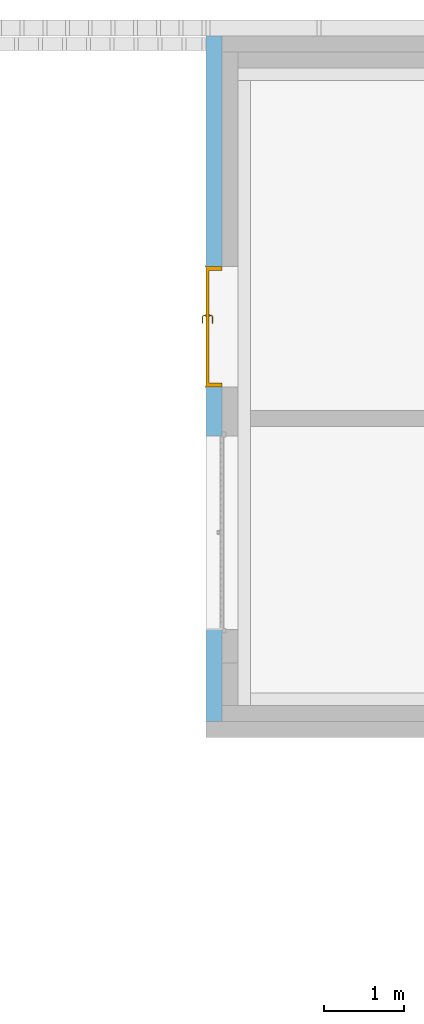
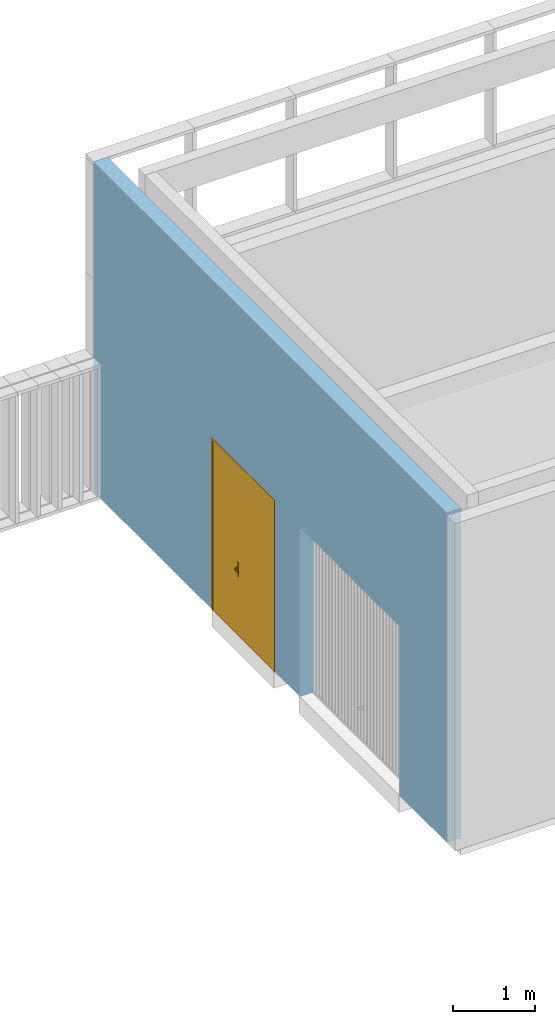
# One storey, part 205 of 240: 1 door, 2 openings, plus 1 element that does not belong to this part.
"""IFC2X3 building model written with IfcOpenShell, lengths in centimetres."""

from ifc_helpers import new_model, entity, si_unit, converted_unit, derived_unit, direction, frame, frame_2d, origin, place, context, subcontext, project, spatial, rectangle, extrude, faceted_brep, source, transform, mapped, material, material_list, layer, layer_set, layer_usage, type_object, type_shapes, element, fill, save


model = new_model("IFC2X3")

# Units and contexts
model_context = context("Model", 3, precision=0.001, world=origin(), true_north=direction((6.12303176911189e-17, 1.0)))
body_context = subcontext(model_context, "Body", "Model", "MODEL_VIEW")
ifc_project = project(units=[si_unit("LENGTHUNIT", "METRE", prefix="CENTI"), si_unit("AREAUNIT", "SQUARE_METRE"), si_unit("VOLUMEUNIT", "CUBIC_METRE"), converted_unit("PLANEANGLEUNIT", "DEGREE", entity("IfcRatioMeasure", 0.0174532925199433), si_unit("PLANEANGLEUNIT", "RADIAN"), dimensions=[0, 0, 0, 0, 0, 0, 0]), si_unit("MASSUNIT", "GRAM", prefix="KILO"), derived_unit("MASSDENSITYUNIT", [(si_unit("MASSUNIT", "GRAM", prefix="KILO"), 1), (si_unit("LENGTHUNIT", "METRE"), -3)]), si_unit("TIMEUNIT", "SECOND"), si_unit("FREQUENCYUNIT", "HERTZ"), si_unit("THERMODYNAMICTEMPERATUREUNIT", "DEGREE_CELSIUS"), derived_unit("THERMALTRANSMITTANCEUNIT", [(si_unit("MASSUNIT", "GRAM", prefix="KILO"), 1), (si_unit("THERMODYNAMICTEMPERATUREUNIT", "KELVIN"), -1), (si_unit("TIMEUNIT", "SECOND"), -3)]), derived_unit("VOLUMETRICFLOWRATEUNIT", [(si_unit("LENGTHUNIT", "METRE"), 3), (si_unit("TIMEUNIT", "SECOND"), -1)]), si_unit("ELECTRICCURRENTUNIT", "AMPERE"), si_unit("ELECTRICVOLTAGEUNIT", "VOLT"), si_unit("POWERUNIT", "WATT"), si_unit("FORCEUNIT", "NEWTON", prefix="KILO"), si_unit("ILLUMINANCEUNIT", "LUX"), si_unit("LUMINOUSFLUXUNIT", "LUMEN"), si_unit("LUMINOUSINTENSITYUNIT", "CANDELA"), derived_unit("USERDEFINED", [(si_unit("MASSUNIT", "GRAM", prefix="KILO"), -1), (si_unit("LENGTHUNIT", "METRE"), -2), (si_unit("TIMEUNIT", "SECOND"), 3), (si_unit("LUMINOUSFLUXUNIT", "LUMEN"), 1)]), derived_unit("LINEARVELOCITYUNIT", [(si_unit("LENGTHUNIT", "METRE"), 1), (si_unit("TIMEUNIT", "SECOND"), -1)]), si_unit("PRESSUREUNIT", "PASCAL"), derived_unit("USERDEFINED", [(si_unit("LENGTHUNIT", "METRE"), -2), (si_unit("MASSUNIT", "GRAM", prefix="KILO"), 1), (si_unit("TIMEUNIT", "SECOND"), -2)])], contexts=[model_context])

# Site, building, storey
site_placement = place(None, frame((-2781.94577612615, 7442.24238424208, 0.0)))
site = spatial("IfcSite", under=ifc_project, at=site_placement, Name="Default", CompositionType="ELEMENT")
building_placement = place(site_placement, origin())
building = spatial("IfcBuilding", under=site, at=building_placement, CompositionType="ELEMENT")
storey_placement = place(building_placement, origin())
storey = spatial("IfcBuildingStorey", under=building, at=storey_placement, Name="N00 - COO", CompositionType="ELEMENT", Elevation=0.0)

# Wall, openings, door
ifc_material_1 = material(Name="Aluminium bardage")
ifc_layer_1 = layer(ifc_material_1, 0.5)
ifc_material_2 = material(Name="01 - Lame d'air")
ifc_layer_2 = layer(ifc_material_2, 1.5)
ifc_material_3 = material(Name="00 - Isolant")
ifc_layer_3 = layer(ifc_material_3, 18.0)
ifc_layer_set = layer_set([ifc_layer_1, ifc_layer_2, ifc_layer_3], Name="Mur de base:04 - Parement - ITE 18cm + vide 2cm")
ifc_layer_usage = layer_usage(ifc_layer_set, "AXIS2", "NEGATIVE", 10.0)
wall_type = type_object("IfcWallType", Name="Mur de base:04 - Parement - ITE 18cm + vide 2cm", PredefinedType="STANDARD", material=ifc_layer_set)
wall_placement = place(building_placement, frame((-11220.6616968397, -830.048500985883, 0.0), z_axis=(0.0, 0.0, 1.0), x_axis=(0.0, 1.0, 0.0)))
wall = element("IfcWallStandardCase", 1, at=wall_placement, inside=storey, type_object=wall_type, material=ifc_layer_usage, Name="Mur de base:04 - Parement - ITE 18cm + vide 2cm", ObjectType="Mur de base:04 - Parement - ITE 18cm + vide 2cm", context=body_context, shape_type="SweptSolid", body=[
    extrude(rectangle(XDim=860.04850098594, YDim=19.9999999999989, at=frame_2d((430.02425049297, 3.99680288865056e-14), x_axis=(-1.0, 0.0))), origin(), (0.0, 0.0, 1.0), 490.0),
])
opening_1_placement = place(wall_placement, frame((830.048500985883, -11220.6616968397, 0.0), z_axis=(0.0, 0.0, 1.0), x_axis=(0.0, -1.0, 0.0)))
element("IfcOpeningElement", 2, at=opening_1_placement, cuts=wall, Name="Mur de base:04 - Parement - ITE 18cm + vide 2cm", ObjectType="Opening", context=body_context, shape_type="SweptSolid", body=[
    extrude(rectangle(XDim=251.500000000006, YDim=242.999999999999, at=frame_2d((0.0, -7.8159700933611e-14), x_axis=(1.0, 0.0))), frame((-11180.6616968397, -593.0, 125.750000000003), z_axis=(-1.0, 0.0, 0.0), x_axis=(0.0, 0.0, -1.0)), (0.0, 0.0, 1.0), 80.0000000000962),
])
opening_2_placement = place(wall_placement, frame((420.024250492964, -10.0, 0.0)))
opening_2 = element("IfcOpeningElement", 3, at=opening_2_placement, cuts=wall, Name="Int. Tierce:PP  chaufferie (1.80m x 2.50m):1", ObjectType="Opening", context=body_context, shape_type="SweptSolid", body=[
    extrude(rectangle(XDim=253.500000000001, YDim=151.0, at=frame_2d((126.750000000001, 75.4999999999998), x_axis=(1.0, 0.0))), frame((0.0, 0.0, 0.0), z_axis=(0.0, 1.0, 0.0), x_axis=(0.0, 0.0, 1.0)), (0.0, 0.0, 1.0), 20.0),
])
ifc_material_4 = material(Name="Finition Peinture - Blanc satiné")
ifc_material_5 = material(Name="Aluminium")
ifc_material_list_1 = material_list([ifc_material_4, ifc_material_1, ifc_material_5])
ifc_material_list_2 = material_list([ifc_material_4, ifc_material_1, ifc_material_5])
door_style = type_object("IfcDoorStyle", Name="PP  chaufferie (1.80m x 2.50m)", ConstructionType="NOTDEFINED", OperationType="DOUBLE_DOOR_SINGLE_SWING", ParameterTakesPrecedence=False, Sizeable=False, material=ifc_material_list_2)
shared_shape = source(origin(), body_context, "Body", "Brep", [
    faceted_brep([(69.535276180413, -0.500000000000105, 86.6003983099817), (70.5000000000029, -0.500000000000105, 87.0), (70.5000000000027, -0.500000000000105, 108.0), (69.5352761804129, -0.500000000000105, 108.399601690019), (68.5000000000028, -0.500000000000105, 108.535898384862), (67.4647238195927, -0.500000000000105, 108.399601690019), (66.5000000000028, -0.500000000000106, 108.0), (66.5000000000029, -0.500000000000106, 87.0), (67.4647238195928, -0.500000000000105, 86.6003983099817), (68.5000000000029, -0.500000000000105, 86.464101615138), (69.5352761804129, 0.0, 108.399601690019), (70.5000000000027, 0.0, 108.0), (70.5000000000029, 0.0, 87.0), (69.535276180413, 0.0, 86.6003983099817), (68.5000000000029, 0.0, 86.464101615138), (67.4647238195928, 0.0, 86.6003983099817), (66.5000000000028, 0.0, 87.0), (66.5000000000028, 0.0, 108.0), (67.4647238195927, 0.0, 108.399601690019), (68.5000000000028, 0.0, 108.535898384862)], [[[0, 1, 2, 3, 4, 5, 6, 7, 8, 9]], [[10, 11, 12, 13, 14, 15, 16, 17, 18, 19]], [[16, 15, 8, 7]], [[8, 15, 14, 9]], [[14, 13, 0, 9]], [[13, 12, 1, 0]], [[2, 1, 12, 11]], [[11, 10, 3, 2]], [[3, 10, 19, 4]], [[19, 18, 5, 4]], [[18, 17, 6, 5]], [[7, 6, 17, 16]]]),
    faceted_brep([(69.535276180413, 4.0, 86.6003983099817), (70.5000000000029, 4.0, 87.0), (70.5000000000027, 4.0, 108.0), (69.5352761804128, 4.0, 108.399601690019), (68.5000000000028, 4.0, 108.535898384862), (67.4647238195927, 4.0, 108.399601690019), (66.5000000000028, 4.0, 108.0), (66.5000000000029, 4.0, 87.0), (67.4647238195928, 4.0, 86.6003983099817), (68.5000000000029, 4.0, 86.464101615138), (69.5352761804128, 4.49999999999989, 108.399601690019), (70.5000000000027, 4.49999999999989, 108.0), (70.5000000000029, 4.49999999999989, 87.0), (69.535276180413, 4.49999999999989, 86.6003983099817), (68.5000000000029, 4.49999999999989, 86.464101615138), (67.4647238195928, 4.49999999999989, 86.6003983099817), (66.5000000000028, 4.49999999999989, 87.0), (66.5000000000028, 4.49999999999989, 108.0), (67.4647238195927, 4.49999999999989, 108.399601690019), (68.5000000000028, 4.49999999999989, 108.535898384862)], [[[0, 1, 2, 3, 4, 5, 6, 7, 8, 9]], [[10, 11, 12, 13, 14, 15, 16, 17, 18, 19]], [[11, 10, 3, 2]], [[3, 10, 19, 4]], [[19, 18, 5, 4]], [[18, 17, 6, 5]], [[7, 6, 17, 16]], [[16, 15, 8, 7]], [[8, 15, 14, 9]], [[14, 13, 0, 9]], [[13, 12, 1, 0]], [[2, 1, 12, 11]]]),
    faceted_brep([(68.2974701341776, -0.500000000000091, 100.778044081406), (68.7025298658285, -0.500000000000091, 100.778044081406), (69.1000000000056, -0.500000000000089, 100.699999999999), (69.1000000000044, -0.500000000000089, 99.3000000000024), (68.7025298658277, -0.500000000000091, 99.2219559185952), (68.2974701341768, -0.500000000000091, 99.221955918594), (67.9000000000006, -0.500000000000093, 99.2999999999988), (67.9000000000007, -0.500000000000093, 100.7), (67.9000000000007, -3.26509507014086, 100.7), (68.2974701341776, -3.10045754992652, 100.778044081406), (69.9023585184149, -4.70534593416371, 100.778044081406), (70.0701397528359, -4.30028620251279, 100.778044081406), (68.7025298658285, -2.93267631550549, 100.778044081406), (69.1000000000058, -2.76803879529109, 100.7), (69.1000000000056, -2.76803879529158, 99.3000000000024), (68.7025298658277, -2.93267631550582, 99.2219559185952), (70.0701397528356, -4.30028620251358, 99.2219559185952), (69.9023585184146, -4.70534593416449, 99.221955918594), (68.2974701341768, -3.10045754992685, 99.221955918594), (67.9000000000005, -3.26509507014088, 99.2999999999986), (69.7377209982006, -5.10281606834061, 100.7), (70.2347772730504, -3.90281606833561, 100.7), (70.2347772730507, -3.90281606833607, 99.3000000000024), (69.7377209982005, -5.10281606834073, 99.2999999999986), (78.5018640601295, -5.1028160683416, 99.2999999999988), (78.5018640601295, -4.70534593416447, 99.221955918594), (78.5018640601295, -4.30028620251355, 99.2219559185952), (78.5018640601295, -3.90281606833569, 99.3000000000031), (78.5018640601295, -3.90281606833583, 100.7), (78.5018640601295, -4.30028620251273, 100.778044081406), (78.5018640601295, -4.70534593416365, 100.778044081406), (78.5018640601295, -5.10281606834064, 100.699999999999), (73.7307697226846, -5.10281606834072, 100.7), (74.2860019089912, -4.5028160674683, 100.78786867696), (74.3683206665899, -3.9028160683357, 100.7), (74.3683206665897, -3.90281606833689, 99.3000000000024), (74.286001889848, -4.50281607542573, 99.2121313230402), (73.7307700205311, -5.10281606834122, 99.2999999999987)], [[[0, 1, 2, 3, 4, 5, 6, 7]], [[8, 9, 0, 7]], [[9, 10, 11, 12, 1, 0]], [[12, 13, 2, 1]], [[3, 2, 13, 14]], [[14, 15, 4, 3]], [[15, 16, 17, 18, 5, 4]], [[18, 19, 6, 5]], [[7, 6, 19, 8]], [[20, 10, 9, 8]], [[11, 21, 13, 12]], [[14, 13, 21, 22]], [[22, 16, 15, 14]], [[17, 23, 19, 18]], [[8, 19, 23, 20]], [[24, 25, 26, 27, 28, 29, 30, 31]], [[32, 30, 33]], [[31, 30, 32]], [[10, 20, 32]], [[33, 34, 11]], [[21, 11, 34]], [[34, 29, 28]], [[30, 29, 33]], [[29, 34, 33]], [[10, 32, 33]], [[10, 33, 11]], [[22, 21, 34, 28, 27, 35]], [[35, 26, 36]], [[37, 36, 25]], [[22, 35, 16]], [[35, 27, 26]], [[24, 37, 25]], [[23, 17, 37]], [[37, 17, 36]], [[17, 16, 36]], [[16, 35, 36]], [[25, 36, 26]], [[20, 23, 37, 24, 31, 32]]]),
    faceted_brep([(68.2974701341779, 4.49999999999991, 100.778044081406), (67.9000000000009, 4.4999999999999, 100.7), (67.8999999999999, 4.4999999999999, 99.2999999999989), (68.2974701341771, 4.49999999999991, 99.221955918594), (68.702529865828, 4.49999999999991, 99.2219559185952), (69.1000000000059, 4.49999999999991, 99.3000000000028), (69.1000000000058, 4.49999999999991, 100.7), (68.7025298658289, 4.49999999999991, 100.778044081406), (69.1000000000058, 6.7485204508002, 99.3000000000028), (69.1000000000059, 6.74852045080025, 100.7), (68.7025298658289, 6.91315797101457, 100.778044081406), (70.0838906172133, 8.29451872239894, 100.778044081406), (69.9161093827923, 8.69957845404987, 100.778044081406), (68.297470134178, 7.0809392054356, 100.778044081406), (67.9000000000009, 7.24557672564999, 100.7), (67.9000000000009, 7.2455767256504, 99.2999999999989), (68.297470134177, 7.08093920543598, 99.221955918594), (69.916109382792, 8.69957845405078, 99.221955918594), (70.083890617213, 8.29451872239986, 99.2219559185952), (68.702529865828, 6.91315797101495, 99.2219559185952), (70.2485281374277, 7.89704858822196, 99.3000000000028), (70.2485281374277, 7.89704858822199, 100.7), (69.751471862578, 9.09704858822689, 100.7), (69.7514718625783, 9.0970485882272, 99.2999999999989), (78.5045783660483, 7.89704858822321, 99.3000000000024), (78.5045783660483, 8.29451872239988, 99.2219559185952), (78.5045783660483, 8.6995784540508, 99.221955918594), (78.5045783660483, 9.09704858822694, 99.2999999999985), (78.5045783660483, 9.09704858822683, 100.7), (78.5045783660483, 8.69957845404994, 100.778044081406), (78.5045783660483, 8.29451872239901, 100.778044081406), (78.5045783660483, 7.89704858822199, 100.7), (74.3765520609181, 7.89704858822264, 99.3000000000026), (74.376553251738, 7.89704858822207, 100.7), (74.2942344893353, 8.49704858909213, 100.78786867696), (73.7445205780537, 9.09704858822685, 100.7), (73.7445204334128, 9.09704858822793, 99.2999999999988), (74.2942345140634, 8.49704858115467, 99.2121313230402)], [[[0, 1, 2, 3, 4, 5, 6, 7]], [[6, 5, 8, 9]], [[9, 10, 7, 6]], [[10, 11, 12, 13, 0, 7]], [[13, 14, 1, 0]], [[2, 1, 14, 15]], [[15, 16, 3, 2]], [[16, 17, 18, 19, 4, 3]], [[19, 8, 5, 4]], [[9, 8, 20, 21]], [[21, 11, 10, 9]], [[12, 22, 14, 13]], [[15, 14, 22, 23]], [[23, 17, 16, 15]], [[18, 20, 8, 19]], [[24, 25, 26, 27, 28, 29, 30, 31]], [[21, 20, 32, 24, 31, 33]], [[33, 30, 34]], [[35, 34, 29]], [[21, 33, 11]], [[33, 31, 30]], [[28, 35, 29]], [[22, 12, 35]], [[35, 12, 34]], [[12, 11, 34]], [[11, 33, 34]], [[29, 34, 30]], [[22, 35, 28, 27, 36, 23]], [[36, 26, 37]], [[27, 26, 36]], [[17, 23, 36]], [[37, 32, 18]], [[20, 18, 32]], [[32, 25, 24]], [[26, 25, 37]], [[25, 32, 37]], [[17, 36, 37]], [[17, 37, 18]]]),
    faceted_brep([(62.5000000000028, 4.0, 250.0), (154.500000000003, 4.0, 250.0), (154.500000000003, 4.0, 0.0), (62.5000000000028, 4.0, 0.0), (62.5000000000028, 0.0, 250.0), (62.5000000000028, 0.0, 0.0), (154.500000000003, 0.0, 0.0), (154.500000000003, 0.0, 250.0)], [[[0, 1, 2, 3]], [[4, 5, 6, 7]], [[1, 0, 4, 7]], [[2, 1, 7, 6]], [[3, 2, 6, 5]], [[0, 3, 5, 4]]]),
    faceted_brep([(158.0, 0.0, 0.0), (154.500000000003, 0.0, 0.0), (154.500000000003, 4.0, 0.0), (153.0, 4.0, 0.0), (153.0, 20.0, 0.0), (158.0, 20.0, 0.0), (158.0, 20.0, 253.500000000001), (158.0, 0.0, 253.500000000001), (153.0, 20.0, 248.5), (12.0, 20.0, 248.5), (12.0, 20.0, 0.0), (7.0, 20.0, 0.0), (7.0, 20.0, 253.500000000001), (153.0, 4.0, 248.5), (154.500000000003, 4.0, 250.0), (10.5000000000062, 4.0, 250.0), (10.5000000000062, 4.0, 0.0), (12.0, 4.0, 0.0), (12.0, 4.0, 248.5), (154.500000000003, 0.0, 250.0), (7.0, 0.0, 253.500000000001), (7.0, 0.0, 0.0), (10.5000000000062, 0.0, 0.0), (10.5000000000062, 0.0, 250.0)], [[[0, 1, 2, 3, 4, 5]], [[5, 6, 7, 0]], [[4, 8, 9, 10, 11, 12, 6, 5]], [[3, 13, 8, 4]], [[2, 14, 15, 16, 17, 18, 13, 3]], [[1, 19, 14, 2]], [[0, 7, 20, 21, 22, 23, 19, 1]], [[12, 11, 21, 20]], [[21, 11, 10, 17, 16, 22]], [[18, 17, 10, 9]], [[23, 22, 16, 15]], [[6, 12, 20, 7]], [[13, 18, 9, 8]], [[19, 23, 15, 14]]]),
    faceted_brep([(10.500000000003, 0.0, 250.0), (62.5000000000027, 0.0, 250.0), (62.5000000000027, 4.0, 250.0), (10.500000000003, 4.0, 250.0), (10.500000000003, 0.0, 0.0), (10.500000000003, 4.0, 0.0), (62.5000000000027, 4.0, 0.0), (62.5000000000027, 0.0, 0.0)], [[[0, 1, 2, 3]], [[4, 5, 6, 7]], [[3, 5, 4, 0]], [[2, 6, 5, 3]], [[1, 7, 6, 2]], [[0, 4, 7, 1]]]),
    faceted_brep([(156.500000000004, 20.0, 0.0), (156.500000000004, 20.5000000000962, 0.0), (159.500000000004, 20.5000000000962, 0.0), (159.500000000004, 20.0, 0.0), (159.500000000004, 20.0, 255.0), (5.50000000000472, 20.0, 255.0), (5.50000000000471, 20.0, 0.0), (8.50000000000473, 20.0, 0.0), (8.5000000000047, 20.0, 252.0), (156.500000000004, 20.0, 252.0), (159.500000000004, 20.5000000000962, 255.0), (156.500000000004, 20.5000000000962, 252.0), (8.50000000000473, 20.5000000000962, 252.0), (8.50000000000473, 20.5000000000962, 0.0), (5.50000000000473, 20.5000000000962, 0.0), (5.50000000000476, 20.5000000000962, 255.0)], [[[0, 1, 2, 3]], [[3, 4, 5, 6, 7, 8, 9, 0]], [[2, 10, 4, 3]], [[1, 11, 12, 13, 14, 15, 10, 2]], [[0, 9, 11, 1]], [[7, 6, 14, 13]], [[8, 7, 13, 12]], [[15, 14, 6, 5]], [[9, 8, 12, 11]], [[10, 15, 5, 4]]]),
    faceted_brep([(159.500000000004, -0.500000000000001, 0.0), (159.500000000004, -0.500000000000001, 255.0), (5.50000000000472, -0.500000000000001, 255.0), (5.50000000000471, -0.500000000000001, 0.0), (8.50000000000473, -0.500000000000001, 0.0), (8.5000000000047, -0.500000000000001, 252.0), (156.500000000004, -0.500000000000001, 252.0), (156.500000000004, -0.500000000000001, 0.0), (159.500000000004, 0.0, 0.0), (159.500000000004, 0.0, 255.0), (156.500000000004, 0.0, 0.0), (156.500000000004, 0.0, 252.0), (8.50000000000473, 0.0, 252.0), (8.50000000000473, 0.0, 0.0), (5.50000000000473, 0.0, 0.0), (5.50000000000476, 0.0, 255.0)], [[[0, 1, 2, 3, 4, 5, 6, 7]], [[8, 9, 1, 0]], [[10, 11, 12, 13, 14, 15, 9, 8]], [[7, 6, 11, 10]], [[5, 4, 13, 12]], [[15, 14, 3, 2]], [[6, 5, 12, 11]], [[9, 15, 2, 1]], [[4, 3, 14, 13]], [[7, 10, 8, 0]]]),
])
type_shapes(door_style, [shared_shape])
door_placement = place(opening_2_placement, frame((158.0, 20.0, 0.0), z_axis=(0.0, 0.0, 1.0), x_axis=(-1.0, 0.0, 0.0)))
door = element("IfcDoor", 4, at=door_placement, inside=storey, type_object=door_style, material=ifc_material_list_1, Name="Int. Tierce:PP  chaufferie (1.80m x 2.50m)", ObjectType="Int. Tierce:PP  chaufferie (1.80m x 2.50m)", OverallHeight=253.500000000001, OverallWidth=151.0, context=body_context, shape_type="MappedRepresentation", body=[
    mapped(shared_shape, transform((0.0, 0.0, 0.0), scale=1.0)),
])
fill(opening_2, door)

save(model, "model.ifc")
